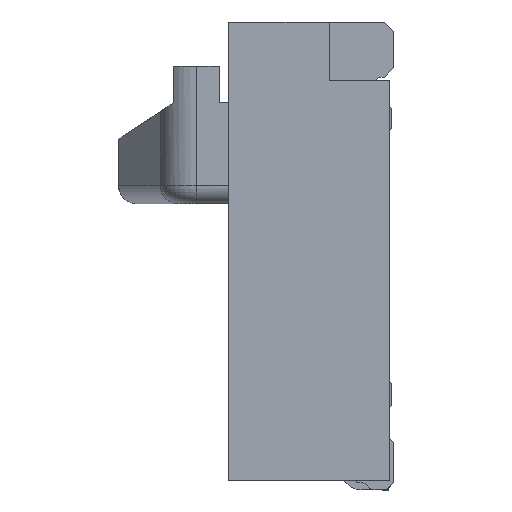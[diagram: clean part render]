
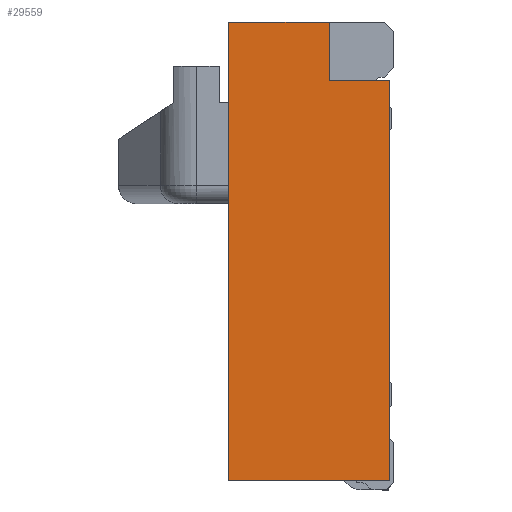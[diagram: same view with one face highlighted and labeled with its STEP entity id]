
A CAD part, left-side view. The second image highlights one B-rep face of the part: STEP entity #29559.
In plain terms, the highlighted planar face has unit normal (-1, 0, 0).
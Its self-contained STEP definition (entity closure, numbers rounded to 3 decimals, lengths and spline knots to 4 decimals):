
#2878 = CARTESIAN_POINT ( 'NONE',  ( -3.6, 0.35, -0.32 ) ) ;
#7471 = CARTESIAN_POINT ( 'NONE',  ( -3.6, 0.35, 0. ) ) ;
#7543 = CARTESIAN_POINT ( 'NONE',  ( -3.6, 0.35, 0. ) ) ;
#7631 = DIRECTION ( 'NONE',  ( 0., 0., 1. ) ) ;
#7633 = VECTOR ( 'NONE', #7631, 1000. ) ;
#7642 = LINE ( 'NONE', #7543, #7633 ) ;
#14685 = VERTEX_POINT ( 'NONE', #2878 ) ;
#14789 = VERTEX_POINT ( 'NONE', #7471 ) ;
#14842 = EDGE_CURVE ( 'NONE', #14685, #14789, #7642, .T. ) ;
#29460 = EDGE_LOOP ( 'NONE', ( #29556, #29558, #29574, #29657, #29534, #29537 ) ) ;
#29531 = EDGE_CURVE ( 'NONE', #29543, #14685, #35529, .T. ) ;
#29534 = ORIENTED_EDGE ( 'NONE', *, *, #29531, .T. ) ;
#29537 = ORIENTED_EDGE ( 'NONE', *, *, #14842, .T. ) ;
#29543 = VERTEX_POINT ( 'NONE', #35526 ) ;
#29550 = EDGE_CURVE ( 'NONE', #29595, #14789, #35520, .T. ) ;
#29553 = EDGE_CURVE ( 'NONE', #29661, #29564, #35578, .T. ) ;
#29556 = ORIENTED_EDGE ( 'NONE', *, *, #29550, .F. ) ;
#29558 = ORIENTED_EDGE ( 'NONE', *, *, #29562, .F. ) ;
#29559 = ADVANCED_FACE ( 'NONE', ( #35579 ), #35537, .F. ) ;
#29562 = EDGE_CURVE ( 'NONE', #29564, #29595, #35562, .T. ) ;
#29564 = VERTEX_POINT ( 'NONE', #35563 ) ;
#29574 = ORIENTED_EDGE ( 'NONE', *, *, #29553, .F. ) ;
#29595 = VERTEX_POINT ( 'NONE', #35568 ) ;
#29657 = ORIENTED_EDGE ( 'NONE', *, *, #29668, .F. ) ;
#29661 = VERTEX_POINT ( 'NONE', #35633 ) ;
#29668 = EDGE_CURVE ( 'NONE', #29543, #29661, #35666, .T. ) ;
#35491 = CARTESIAN_POINT ( 'NONE',  ( -3.6, 0.02, -0.32 ) ) ;
#35517 = DIRECTION ( 'NONE',  ( 0., -1., 0. ) ) ;
#35518 = VECTOR ( 'NONE', #35517, 1000. ) ;
#35519 = CARTESIAN_POINT ( 'NONE',  ( -3.6, 0.9, 0. ) ) ;
#35520 = LINE ( 'NONE', #35519, #35518 ) ;
#35524 = AXIS2_PLACEMENT_3D ( 'NONE', #35572, #35571, #35570 ) ;
#35526 = CARTESIAN_POINT ( 'NONE',  ( -3.6, 0.02, -0.32 ) ) ;
#35527 = DIRECTION ( 'NONE',  ( 0., 1., 0. ) ) ;
#35528 = VECTOR ( 'NONE', #35527, 1000. ) ;
#35529 = LINE ( 'NONE', #35491, #35528 ) ;
#35537 = PLANE ( 'NONE',  #35524 ) ;
#35547 = DIRECTION ( 'NONE',  ( 0., 0., 1. ) ) ;
#35561 = VECTOR ( 'NONE', #35547, 1000. ) ;
#35562 = LINE ( 'NONE', #35566, #35561 ) ;
#35563 = CARTESIAN_POINT ( 'NONE',  ( -3.6, 0.9, -2.5 ) ) ;
#35566 = CARTESIAN_POINT ( 'NONE',  ( -3.6, 0.9, 0. ) ) ;
#35568 = CARTESIAN_POINT ( 'NONE',  ( -3.6, 0.9, 0. ) ) ;
#35570 = DIRECTION ( 'NONE',  ( 0., 0., 1. ) ) ;
#35571 = DIRECTION ( 'NONE',  ( 1., 0., 0. ) ) ;
#35572 = CARTESIAN_POINT ( 'NONE',  ( -3.6, 0.9, -2.4 ) ) ;
#35575 = DIRECTION ( 'NONE',  ( 0., 1., 0. ) ) ;
#35576 = VECTOR ( 'NONE', #35575, 1000. ) ;
#35577 = CARTESIAN_POINT ( 'NONE',  ( -3.6, 0.02, -2.5 ) ) ;
#35578 = LINE ( 'NONE', #35577, #35576 ) ;
#35579 = FACE_OUTER_BOUND ( 'NONE', #29460, .T. ) ;
#35633 = CARTESIAN_POINT ( 'NONE',  ( -3.6, 0.02, -2.5 ) ) ;
#35643 = CARTESIAN_POINT ( 'NONE',  ( -3.6, 0.02, -2.5 ) ) ;
#35664 = DIRECTION ( 'NONE',  ( 0., 0., -1. ) ) ;
#35665 = VECTOR ( 'NONE', #35664, 1000. ) ;
#35666 = LINE ( 'NONE', #35643, #35665 ) ;
